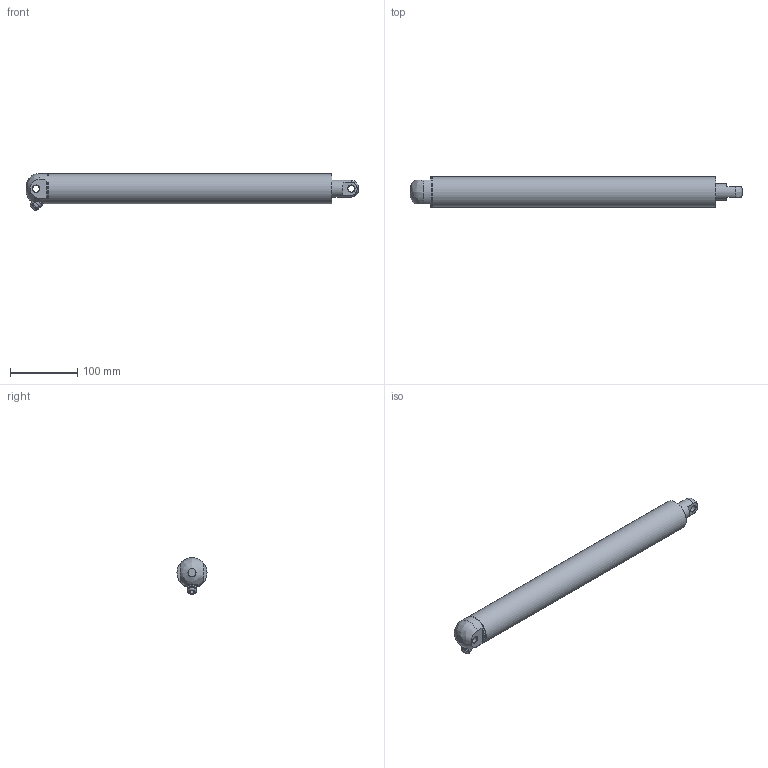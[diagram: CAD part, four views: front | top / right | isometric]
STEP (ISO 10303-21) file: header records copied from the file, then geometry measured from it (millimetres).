
FILE_DESCRIPTION( ( 'Unknown' ), '1' );
FILE_NAME( 'Z:/12¬ãµo³¡/Project/Automation/Linear Actuators/CAD/ELA45/STEP/ELA45200B.stp', 'Unknown', ( 'Unknown' ), ( 'Unknown' ), 'PSStep 10.0', 'Unknown', ' ' );
FILE_SCHEMA( ( 'AUTOMOTIVE_DESIGN { 1 0 10303 214 1 1 1 1 }' ) );
Length unit declared in the file: millimetre
Products named in the file (1): 1
Bounding box: 495 x 45 x 54.84 mm (x, y, z)
Volume: 196112.1 mm3; surface area: 126904.2 mm2
Topology: 1 solids, 2 shells, 64 faces, 158 edges, 103 vertices
Faces by surface type: plane 32, cylinder 22, cone 7, bspline 2, torus 1
Full cylindrical faces by diameter (mm): 6.4 x1, 10.1 x2, 13.8 x2, 25 x1, 40 x1, 45 x2
Entity records: 2566 total; most frequent: CARTESIAN_POINT 604, DIRECTION 312, ORIENTED_EDGE 262, EDGE_CURVE 131, AXIS2_PLACEMENT_3D 125, VERTEX_POINT 95, EDGE_LOOP 92, FACE_OUTER_BOUND 76
